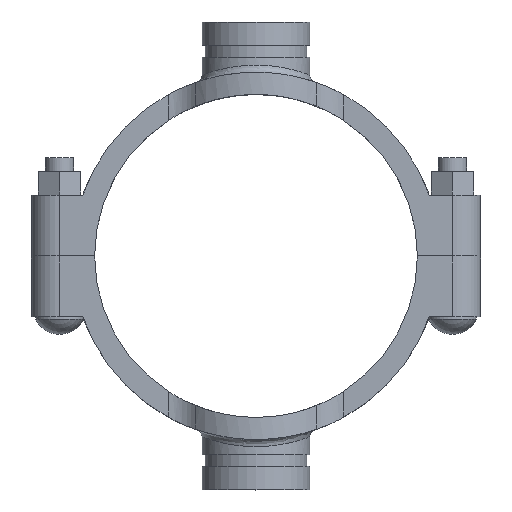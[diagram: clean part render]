
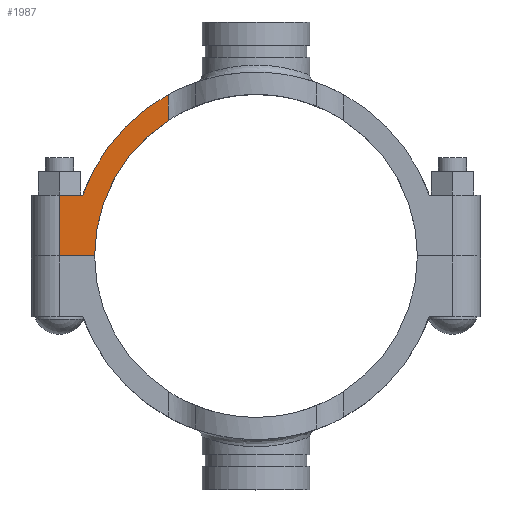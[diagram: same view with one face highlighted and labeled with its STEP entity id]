
A CAD part, top view. The second image highlights one B-rep face of the part: STEP entity #1987.
In plain terms, the highlighted planar face has unit normal (0, 0, 1) as drawn and (0, 0, -1) by its records, which use the part's own axes.
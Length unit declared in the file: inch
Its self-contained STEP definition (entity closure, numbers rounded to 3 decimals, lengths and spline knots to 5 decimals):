
#185=FACE_OUTER_BOUND('',#303,.T.);
#303=EDGE_LOOP('',(#1447,#1448,#1449,#1450,#1451,#1452));
#449=LINE('',#3585,#599);
#450=LINE('',#3587,#600);
#451=LINE('',#3589,#601);
#452=LINE('',#3590,#602);
#599=VECTOR('',#2575,0.3937);
#600=VECTOR('',#2576,0.3937);
#601=VECTOR('',#2577,0.3937);
#602=VECTOR('',#2578,0.3937);
#693=CIRCLE('',#2142,4.906);
#721=CIRCLE('',#2200,4.3125);
#806=VERTEX_POINT('',#3210);
#807=VERTEX_POINT('',#3212);
#858=VERTEX_POINT('',#3506);
#859=VERTEX_POINT('',#3519);
#868=VERTEX_POINT('',#3586);
#869=VERTEX_POINT('',#3588);
#1003=EDGE_CURVE('',#807,#806,#693,.T.);
#1077=EDGE_CURVE('',#859,#858,#721,.T.);
#1089=EDGE_CURVE('',#858,#807,#449,.T.);
#1090=EDGE_CURVE('',#806,#868,#450,.T.);
#1091=EDGE_CURVE('',#869,#868,#451,.T.);
#1092=EDGE_CURVE('',#869,#859,#452,.T.);
#1447=ORIENTED_EDGE('',*,*,#1077,.T.);
#1448=ORIENTED_EDGE('',*,*,#1089,.T.);
#1449=ORIENTED_EDGE('',*,*,#1003,.T.);
#1450=ORIENTED_EDGE('',*,*,#1090,.T.);
#1451=ORIENTED_EDGE('',*,*,#1091,.F.);
#1452=ORIENTED_EDGE('',*,*,#1092,.T.);
#1802=PLANE('',#2204);
#1987=ADVANCED_FACE('',(#185),#1802,.T.);
#2142=AXIS2_PLACEMENT_3D('',#3213,#2404,#2405);
#2200=AXIS2_PLACEMENT_3D('',#3520,#2559,#2560);
#2204=AXIS2_PLACEMENT_3D('',#3584,#2573,#2574);
#2404=DIRECTION('center_axis',(0.,0.,-1.));
#2405=DIRECTION('ref_axis',(0.944,0.331,0.));
#2559=DIRECTION('center_axis',(0.,0.,1.));
#2560=DIRECTION('ref_axis',(-1.,0.,0.));
#2573=DIRECTION('center_axis',(0.,0.,-1.));
#2574=DIRECTION('ref_axis',(-1.,0.,0.));
#2575=DIRECTION('',(0.,1.,0.));
#2576=DIRECTION('',(1.,0.,0.));
#2577=DIRECTION('',(0.,1.,0.));
#2578=DIRECTION('',(-1.,0.,0.));
#3210=CARTESIAN_POINT('',(4.62906,1.625,-1.25));
#3212=CARTESIAN_POINT('',(2.34521,4.30916,-1.25));
#3213=CARTESIAN_POINT('Origin',(0.,0.,-1.25));
#3506=CARTESIAN_POINT('',(2.34521,3.61907,-1.25));
#3519=CARTESIAN_POINT('',(4.3125,0.,-1.25));
#3520=CARTESIAN_POINT('Origin',(0.,0.,-1.25));
#3584=CARTESIAN_POINT('Origin',(5.25,0.,-1.25));
#3585=CARTESIAN_POINT('',(2.34521,0.,-1.25));
#3586=CARTESIAN_POINT('',(5.25,1.625,-1.25));
#3587=CARTESIAN_POINT('',(4.93953,1.625,-1.25));
#3588=CARTESIAN_POINT('',(5.25,0.,-1.25));
#3589=CARTESIAN_POINT('',(5.25,0.,-1.25));
#3590=CARTESIAN_POINT('',(5.25,0.,-1.25));
